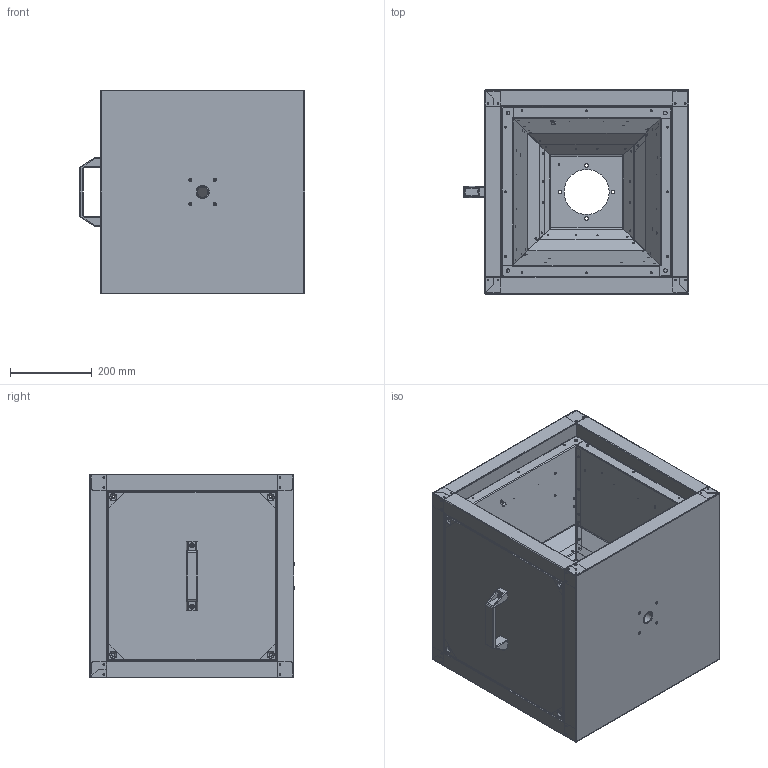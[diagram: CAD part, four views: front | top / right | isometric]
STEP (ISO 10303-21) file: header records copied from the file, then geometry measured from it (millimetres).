
FILE_DESCRIPTION (( 'STEP AP203' ), '1' );
FILE_NAME ('143079-00_MPC280ECT30_step.step', '2018-07-16T13:26:20', ( '' ), ( '' ), 'SwSTEP 2.0', 'SolidWorks 2017', '' );
FILE_SCHEMA (( 'CONFIG_CONTROL_DESIGN' ));
Length unit declared in the file: millimetre
Products named in the file (1): 143079-00_MPC280ECT30_step
Bounding box: 552 x 500.1 x 500 mm (x, y, z)
Surface area: 3800038.4 mm2 (no closed solid volume)
Topology: 0 solids, 144 shells, 1035 faces, 4830 edges, 3881 vertices
Faces by surface type: cylinder 534, plane 412, torus 42, cone 26, bspline 21
Entity records: 50800 total; most frequent: CARTESIAN_POINT 11456, DIRECTION 8464, ORIENTED_EDGE 6311, EDGE_CURVE 4830, VERTEX_POINT 3881, AXIS2_PLACEMENT_3D 2885, LINE 2694, VECTOR 2694
